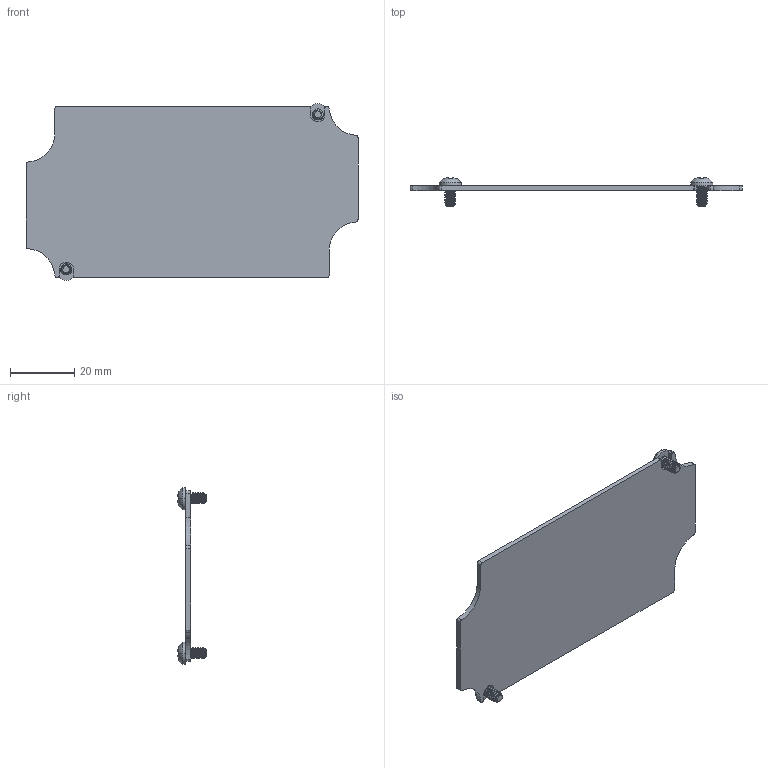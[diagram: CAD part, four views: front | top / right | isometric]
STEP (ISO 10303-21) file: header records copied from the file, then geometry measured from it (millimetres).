
FILE_DESCRIPTION (( 'STEP AP214' ), '1' );
FILE_NAME ('AN-02K.step', '2026-09-17T19:32:10', ( '' ), ( '' ), 'SwSTEP 2.0', 'SolidWorks 2026', '' );
FILE_SCHEMA (( 'AUTOMOTIVE_DESIGN' ));
Length unit declared in the file: inch
Products named in the file (3): AN-02K; SCREWS-050; AN-02-P_DEFAULT
Assembly tree (3 placements, depth 2):
  AN-02K
    AN-02-P_DEFAULT
    SCREWS-050  x2
Bounding box: 103 x 8.8 x 54.86 mm (x, y, z)
Volume: 7864.3 mm3; surface area: 10912.1 mm2
Topology: 3 solids, 3 shells, 703 faces, 1707 edges, 1008 vertices
Faces by surface type: bspline 368, cylinder 175, plane 64, sphere 48, cone 40, torus 8
Entity records: 17469 total; most frequent: CARTESIAN_POINT 10077, ORIENTED_EDGE 1796, DIRECTION 1062, EDGE_CURVE 898, VERTEX_POINT 535, B_SPLINE_CURVE_WITH_KNOTS 415, AXIS2_PLACEMENT_3D 389, EDGE_LOOP 369
